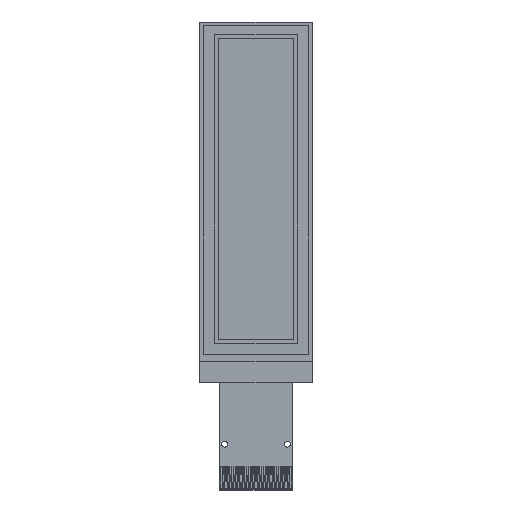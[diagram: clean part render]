
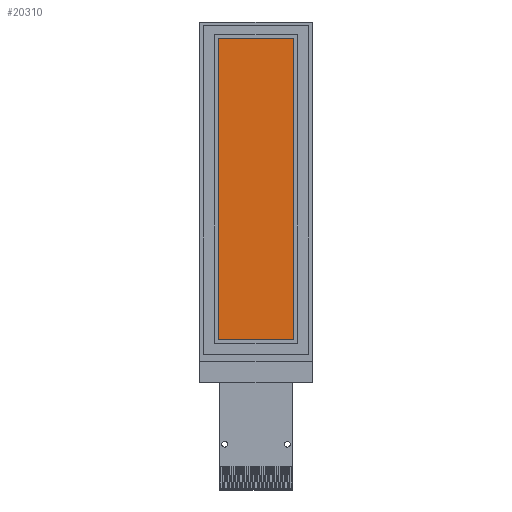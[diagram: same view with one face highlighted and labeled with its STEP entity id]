
A CAD part, top view. The second image highlights one B-rep face of the part: STEP entity #20310.
In plain terms, the highlighted planar face has unit normal (0, 0, 1).
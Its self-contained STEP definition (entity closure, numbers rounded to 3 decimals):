
#38 = EDGE_CURVE ( 'NONE', #24368, #15702, #22504, .T. ) ;
#287 = CARTESIAN_POINT ( 'NONE',  ( 2.605, -2.25, 0.75 ) ) ;
#2428 = CARTESIAN_POINT ( 'NONE',  ( 0., -44.47, 0.75 ) ) ;
#3068 = CARTESIAN_POINT ( 'NONE',  ( 2.605, 0., 0.75 ) ) ;
#3843 = FACE_OUTER_BOUND ( 'NONE', #14099, .T. ) ;
#4025 = CARTESIAN_POINT ( 'NONE',  ( 2.605, -44.47, 0.75 ) ) ;
#5906 = VECTOR ( 'NONE', #6371, 1000. ) ;
#6371 = DIRECTION ( 'NONE',  ( 1., 0., 0. ) ) ;
#6711 = VERTEX_POINT ( 'NONE', #8128 ) ;
#8128 = CARTESIAN_POINT ( 'NONE',  ( 13.145, -44.47, 0.75 ) ) ;
#8306 = ORIENTED_EDGE ( 'NONE', *, *, #18798, .F. ) ;
#8842 = CARTESIAN_POINT ( 'NONE',  ( 0., -2.25, 0.75 ) ) ;
#9732 = AXIS2_PLACEMENT_3D ( 'NONE', #25271, #21267, #17618 ) ;
#9793 = PLANE ( 'NONE',  #9732 ) ;
#11538 = VECTOR ( 'NONE', #13045, 1000. ) ;
#11787 = ORIENTED_EDGE ( 'NONE', *, *, #24638, .F. ) ;
#13045 = DIRECTION ( 'NONE',  ( 0., 1., 0. ) ) ;
#14088 = LINE ( 'NONE', #2428, #14191 ) ;
#14099 = EDGE_LOOP ( 'NONE', ( #23899, #11787, #8306, #24594 ) ) ;
#14191 = VECTOR ( 'NONE', #19749, 1000. ) ;
#14245 = VECTOR ( 'NONE', #22353, 1000. ) ;
#15340 = CARTESIAN_POINT ( 'NONE',  ( 13.145, -2.25, 0.75 ) ) ;
#15702 = VERTEX_POINT ( 'NONE', #15340 ) ;
#17015 = VERTEX_POINT ( 'NONE', #4025 ) ;
#17618 = DIRECTION ( 'NONE',  ( 1., 0., 0. ) ) ;
#18798 = EDGE_CURVE ( 'NONE', #15702, #6711, #19915, .T. ) ;
#19749 = DIRECTION ( 'NONE',  ( -1., 0., 0. ) ) ;
#19915 = LINE ( 'NONE', #23910, #14245 ) ;
#20310 = ADVANCED_FACE ( 'NONE', ( #3843 ), #9793, .T. ) ;
#21267 = DIRECTION ( 'NONE',  ( 0., 0., 1. ) ) ;
#21934 = EDGE_CURVE ( 'NONE', #17015, #24368, #22970, .T. ) ;
#22353 = DIRECTION ( 'NONE',  ( 0., -1., 0. ) ) ;
#22504 = LINE ( 'NONE', #8842, #5906 ) ;
#22970 = LINE ( 'NONE', #3068, #11538 ) ;
#23899 = ORIENTED_EDGE ( 'NONE', *, *, #21934, .F. ) ;
#23910 = CARTESIAN_POINT ( 'NONE',  ( 13.145, 0., 0.75 ) ) ;
#24368 = VERTEX_POINT ( 'NONE', #287 ) ;
#24594 = ORIENTED_EDGE ( 'NONE', *, *, #38, .F. ) ;
#24638 = EDGE_CURVE ( 'NONE', #6711, #17015, #14088, .T. ) ;
#25271 = CARTESIAN_POINT ( 'NONE',  ( 0., 0., 0.75 ) ) ;
